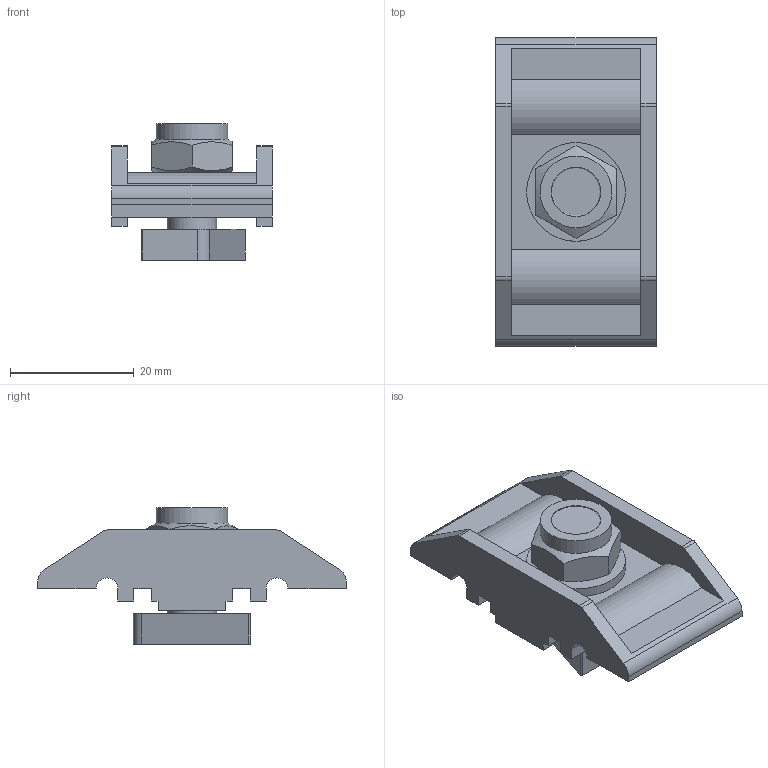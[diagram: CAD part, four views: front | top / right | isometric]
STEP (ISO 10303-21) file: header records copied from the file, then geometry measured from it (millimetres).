
FILE_DESCRIPTION(/* description */ ('BEAM EXTENSION CLAMP'),/* implementation_level */ '2;1');
FILE_NAME(/* name */ '\\carryline.intra\privat\users\mathias\Desktop\Tillfälliga filer\140-1025.stp',/* time_stamp */ '2018-11-30T09:36:40+01:00',/* author */ ('MD'),/* organization */ (''),/* preprocessor_version */ 'ST-DEVELOPER v17',/* originating_system */ 'Autodesk Inventor 2018',/* authorisation */ '');
FILE_SCHEMA (('AUTOMOTIVE_DESIGN { 1 0 10303 214 3 1 1 }'));
Length unit declared in the file: millimetre
Products named in the file (5): 140-1025; 140-1025_1; 100-6060; 5040-8; 5552-8
Assembly tree (4 placements, depth 2):
  140-1025
    140-1025_1
    100-6060
    5040-8
    5552-8
Bounding box: 26 x 50 x 22.1 mm (x, y, z)
Volume: 9415.1 mm3; surface area: 6790.2 mm2
Topology: 4 solids, 4 shells, 75 faces, 197 edges, 131 vertices
Faces by surface type: plane 51, cylinder 20, cone 4
Full cylindrical faces by diameter (mm): 6.647 x1, 8 x2, 8.4 x1, 11.6 x1, 16 x1
Entity records: 2496 total; most frequent: CARTESIAN_POINT 436, DIRECTION 400, ORIENTED_EDGE 394, EDGE_CURVE 197, LINE 138, VECTOR 138, VERTEX_POINT 131, AXIS2_PLACEMENT_3D 131
